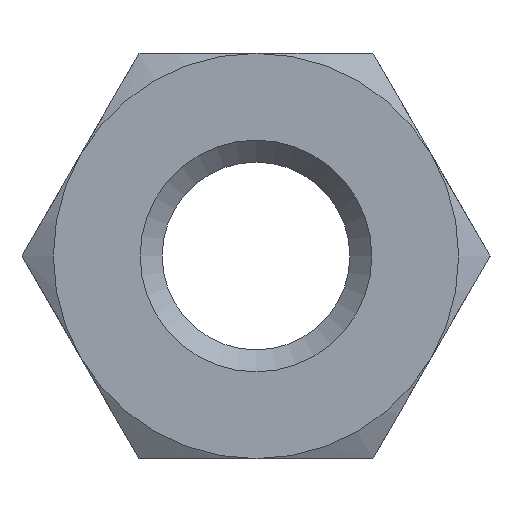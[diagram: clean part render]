
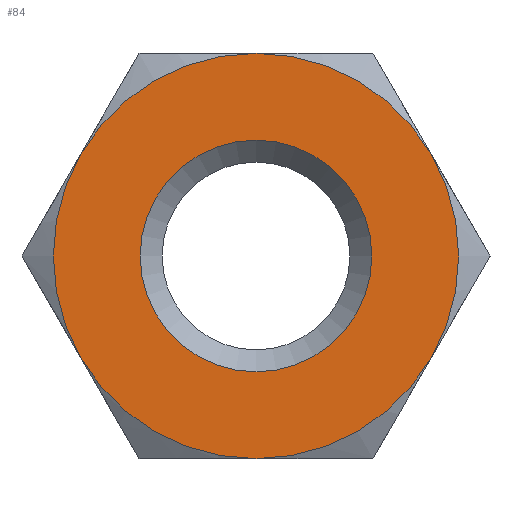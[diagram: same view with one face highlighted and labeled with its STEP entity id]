
A CAD part, left-side view. The second image highlights one B-rep face of the part: STEP entity #84.
In plain terms, the highlighted planar face has unit normal (-1, 0, 0).
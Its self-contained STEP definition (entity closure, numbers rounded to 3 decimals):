
#84 = ADVANCED_FACE( '', ( #118, #119 ), #120, .F. );
#118 = FACE_OUTER_BOUND( '', #169, .T. );
#119 = FACE_BOUND( '', #170, .T. );
#120 = PLANE( '', #171 );
#169 = EDGE_LOOP( '', ( #268, #269, #270, #271, #272, #273 ) );
#170 = EDGE_LOOP( '', ( #274 ) );
#171 = AXIS2_PLACEMENT_3D( '', #275, #276, #277 );
#268 = ORIENTED_EDGE( '', *, *, #391, .F. );
#269 = ORIENTED_EDGE( '', *, *, #392, .F. );
#270 = ORIENTED_EDGE( '', *, *, #393, .F. );
#271 = ORIENTED_EDGE( '', *, *, #389, .F. );
#272 = ORIENTED_EDGE( '', *, *, #387, .F. );
#273 = ORIENTED_EDGE( '', *, *, #388, .F. );
#274 = ORIENTED_EDGE( '', *, *, #394, .T. );
#275 = CARTESIAN_POINT( '', ( 0., 0., 0. ) );
#276 = DIRECTION( '', ( 1., 0., 0. ) );
#277 = DIRECTION( '', ( 0., 0., -1. ) );
#387 = EDGE_CURVE( '', #417, #435, #451, .T. );
#388 = EDGE_CURVE( '', #426, #417, #452, .T. );
#389 = EDGE_CURVE( '', #435, #453, #454, .T. );
#391 = EDGE_CURVE( '', #456, #426, #457, .T. );
#392 = EDGE_CURVE( '', #458, #456, #459, .T. );
#393 = EDGE_CURVE( '', #453, #458, #460, .T. );
#394 = EDGE_CURVE( '', #461, #461, #462, .T. );
#417 = VERTEX_POINT( '', #503 );
#426 = VERTEX_POINT( '', #531 );
#435 = VERTEX_POINT( '', #557 );
#451 = CIRCLE( '', #589, 3.5 );
#452 = CIRCLE( '', #590, 3.5 );
#453 = VERTEX_POINT( '', #591 );
#454 = CIRCLE( '', #592, 3.5 );
#456 = VERTEX_POINT( '', #599 );
#457 = CIRCLE( '', #600, 3.5 );
#458 = VERTEX_POINT( '', #601 );
#459 = CIRCLE( '', #602, 3.5 );
#460 = CIRCLE( '', #603, 3.5 );
#461 = VERTEX_POINT( '', #604 );
#462 = CIRCLE( '', #605, 2. );
#503 = CARTESIAN_POINT( '', ( 0., 0., 3.5 ) );
#531 = CARTESIAN_POINT( '', ( 0., 3.031, 1.75 ) );
#557 = CARTESIAN_POINT( '', ( 0., -3.031, 1.75 ) );
#589 = AXIS2_PLACEMENT_3D( '', #691, #692, #693 );
#590 = AXIS2_PLACEMENT_3D( '', #694, #695, #696 );
#591 = CARTESIAN_POINT( '', ( 0., -3.031, -1.75 ) );
#592 = AXIS2_PLACEMENT_3D( '', #697, #698, #699 );
#599 = CARTESIAN_POINT( '', ( 0., 3.031, -1.75 ) );
#600 = AXIS2_PLACEMENT_3D( '', #700, #701, #702 );
#601 = CARTESIAN_POINT( '', ( 0., 0., -3.5 ) );
#602 = AXIS2_PLACEMENT_3D( '', #703, #704, #705 );
#603 = AXIS2_PLACEMENT_3D( '', #706, #707, #708 );
#604 = CARTESIAN_POINT( '', ( 0., 0., -2. ) );
#605 = AXIS2_PLACEMENT_3D( '', #709, #710, #711 );
#691 = CARTESIAN_POINT( '', ( 0., 0., 0. ) );
#692 = DIRECTION( '', ( 1., 0., 0. ) );
#693 = DIRECTION( '', ( 0., 0., -1. ) );
#694 = CARTESIAN_POINT( '', ( 0., 0., 0. ) );
#695 = DIRECTION( '', ( 1., 0., 0. ) );
#696 = DIRECTION( '', ( 0., 0., -1. ) );
#697 = CARTESIAN_POINT( '', ( 0., 0., 0. ) );
#698 = DIRECTION( '', ( 1., 0., 0. ) );
#699 = DIRECTION( '', ( 0., 0., -1. ) );
#700 = CARTESIAN_POINT( '', ( 0., 0., 0. ) );
#701 = DIRECTION( '', ( 1., 0., 0. ) );
#702 = DIRECTION( '', ( 0., 0., -1. ) );
#703 = CARTESIAN_POINT( '', ( 0., 0., 0. ) );
#704 = DIRECTION( '', ( 1., 0., 0. ) );
#705 = DIRECTION( '', ( 0., 0., -1. ) );
#706 = CARTESIAN_POINT( '', ( 0., 0., 0. ) );
#707 = DIRECTION( '', ( 1., 0., 0. ) );
#708 = DIRECTION( '', ( 0., 0., -1. ) );
#709 = CARTESIAN_POINT( '', ( 0., 0., 0. ) );
#710 = DIRECTION( '', ( 1., 0., 0. ) );
#711 = DIRECTION( '', ( 0., 0., -1. ) );
